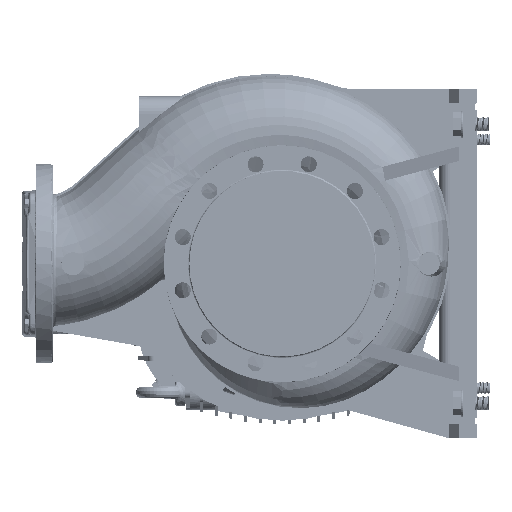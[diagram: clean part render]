
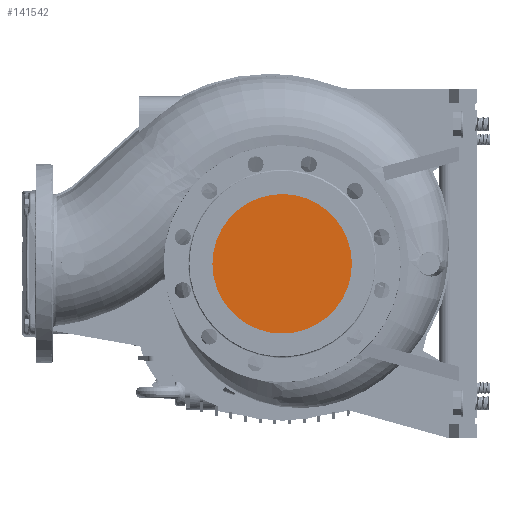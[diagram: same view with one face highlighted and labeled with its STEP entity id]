
A CAD part, left-side view. The second image highlights one B-rep face of the part: STEP entity #141542.
In plain terms, the highlighted planar face has unit normal (-1, 0, 0).
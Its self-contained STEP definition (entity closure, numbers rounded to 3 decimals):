
#7771 = CARTESIAN_POINT ( 'NONE',  ( -155., 0., 0. ) ) ;
#20950 = PLANE ( 'NONE',  #98323 ) ;
#21881 = CARTESIAN_POINT ( 'NONE',  ( -155., 0., 100. ) ) ;
#24925 = AXIS2_PLACEMENT_3D ( 'NONE', #66356, #134546, #121811 ) ;
#25450 = ORIENTED_EDGE ( 'NONE', *, *, #157544, .F. ) ;
#34580 = FACE_OUTER_BOUND ( 'NONE', #96165, .T. ) ;
#36575 = VERTEX_POINT ( 'NONE', #21881 ) ;
#36732 = EDGE_CURVE ( 'NONE', #172782, #36575, #129494, .T. ) ;
#48409 = AXIS2_PLACEMENT_3D ( 'NONE', #7771, #121354, #133204 ) ;
#61844 = DIRECTION ( 'NONE',  ( 0., -1., 0. ) ) ;
#66356 = CARTESIAN_POINT ( 'NONE',  ( -155., 0., 0. ) ) ;
#77267 = DIRECTION ( 'NONE',  ( -1., 0., 0. ) ) ;
#96165 = EDGE_LOOP ( 'NONE', ( #107015, #25450 ) ) ;
#98323 = AXIS2_PLACEMENT_3D ( 'NONE', #130057, #77267, #61844 ) ;
#107015 = ORIENTED_EDGE ( 'NONE', *, *, #36732, .F. ) ;
#121340 = CARTESIAN_POINT ( 'NONE',  ( -155., 0., -100. ) ) ;
#121354 = DIRECTION ( 'NONE',  ( 1., 0., 0. ) ) ;
#121811 = DIRECTION ( 'NONE',  ( 0., 0., -1. ) ) ;
#129494 = CIRCLE ( 'NONE', #24925, 100. ) ;
#130057 = CARTESIAN_POINT ( 'NONE',  ( -155., 101.2, -101.2 ) ) ;
#133204 = DIRECTION ( 'NONE',  ( 0., 0., -1. ) ) ;
#134546 = DIRECTION ( 'NONE',  ( 1., 0., 0. ) ) ;
#141542 = ADVANCED_FACE ( 'NONE', ( #34580 ), #20950, .T. ) ;
#155673 = CIRCLE ( 'NONE', #48409, 100. ) ;
#157544 = EDGE_CURVE ( 'NONE', #36575, #172782, #155673, .T. ) ;
#172782 = VERTEX_POINT ( 'NONE', #121340 ) ;
